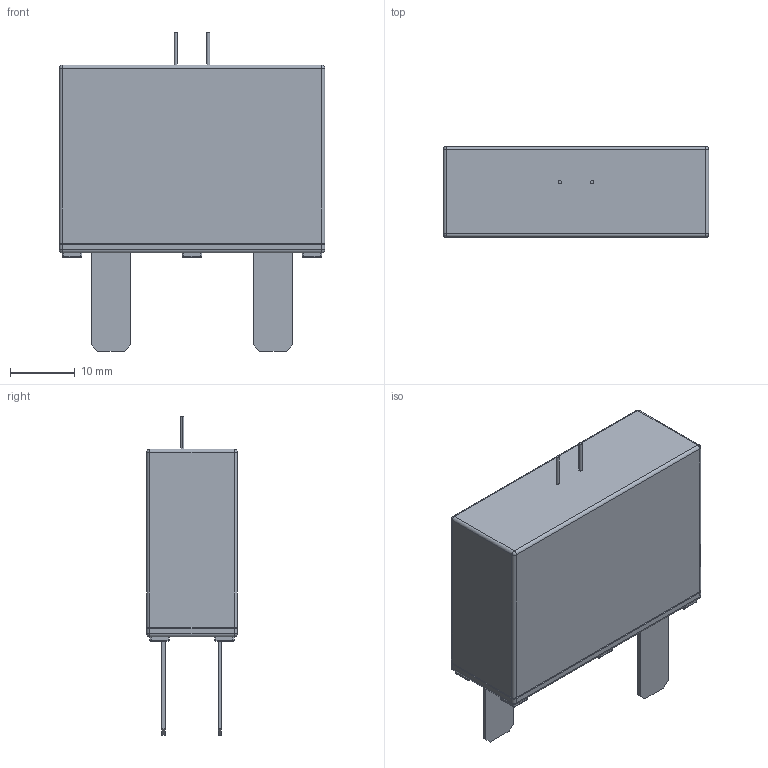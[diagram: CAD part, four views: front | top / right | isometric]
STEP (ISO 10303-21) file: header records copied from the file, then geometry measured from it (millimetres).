
FILE_DESCRIPTION((''),'2;1');
FILE_NAME('TFMOV20K-14-IT-20200619','2020-06-24T',('set'),(''),'PRO/ENGINEER BY PARAMETRIC TECHNOLOGY CORPORATION, 2012310','PRO/ENGINEER BY PARAMETRIC TECHNOLOGY CORPORATION, 2012310','');
FILE_SCHEMA(('CONFIG_CONTROL_DESIGN','SHAPE_APPEARANCE_LAYERS_GROUPS'));
Length unit declared in the file: millimetre
Products named in the file (1): TFMOV20K-14-IT-20200619
Bounding box: 41 x 14 x 49.2 mm (x, y, z)
Volume: 16654.4 mm3; surface area: 5554.7 mm2
Topology: 1 solids, 6 shells, 475 faces, 1188 edges, 744 vertices
Faces by surface type: plane 311, cylinder 116, sphere 32, torus 9, cone 4, bspline 3
Entity records: 17708 total; most frequent: CARTESIAN_POINT 2666, ORIENTED_EDGE 2376, DIRECTION 2323, PRESENTATION_STYLE_ASSIGNMENT 1189, STYLED_ITEM 1189, CURVE_STYLE 1188, EDGE_CURVE 1188, VECTOR 937
